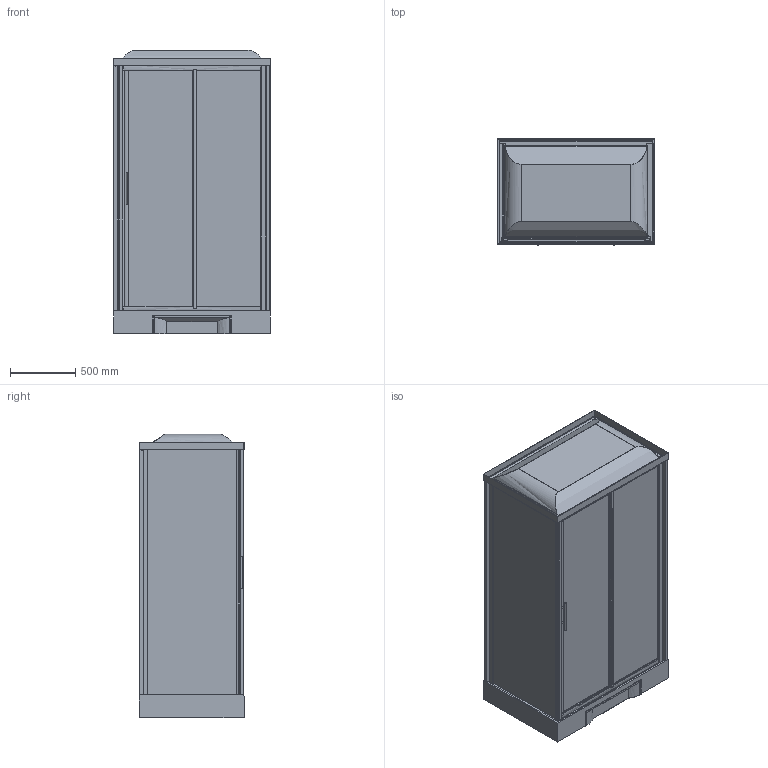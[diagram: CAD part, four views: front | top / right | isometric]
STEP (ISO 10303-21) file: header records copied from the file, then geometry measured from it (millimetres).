
FILE_DESCRIPTION(('STEP AP203'),'2;1');
FILE_NAME('NNH 2P 120 TT.stp','2015-09-08T09:31:25',(''),(''),'2014.1.117','THINKDESIGN','');
FILE_SCHEMA(('CONFIG_CONTROL_DESIGN'));
Length unit declared in the file: millimetre
Products named in the file (1): top
Bounding box: 1204.04 x 808.72 x 2170.67 mm (x, y, z)
Volume: 255312889.8 mm3; surface area: 23426715.8 mm2
Topology: 25 solids, 25 shells, 658 faces, 1755 edges, 1137 vertices
Faces by surface type: bspline 357, plane 259, cylinder 42
Entity records: 70991 total; most frequent: CARTESIAN_POINT 57527, ORIENTED_EDGE 3384, EDGE_CURVE 1692, DIRECTION 1605, VERTEX_POINT 1101, VECTOR 787, LINE 787, EDGE_LOOP 667
